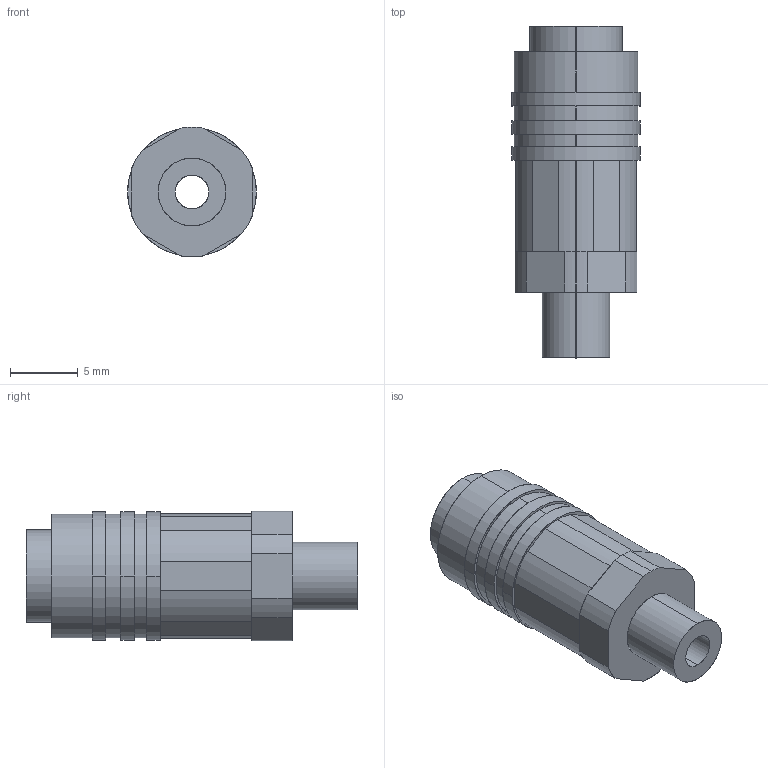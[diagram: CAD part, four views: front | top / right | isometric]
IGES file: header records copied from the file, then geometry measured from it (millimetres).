
Start section: SolidWorks IGES file using analytic representation for surfaces
Global section: file name: C:\Documents and Settings\CAD53\デスクトップ\追加の３Dデータ\継手\120121.IGS; native system: SolidWorks 2006 by SolidWorks Corporation; preprocessor: SolidWorks 2006 by SolidWorks Corporation; author: CAD53; date: 071113.194337; units: millimetre
Bounding box: 9.5 x 24.5 x 9.58 mm (x, y, z)
Surface area: 1020.7 mm2 (no closed solid volume)
Topology: 0 solids, 0 shells, 58 faces, 920 edges, 920 vertices
Faces by surface type: revolution 34, bspline 24
